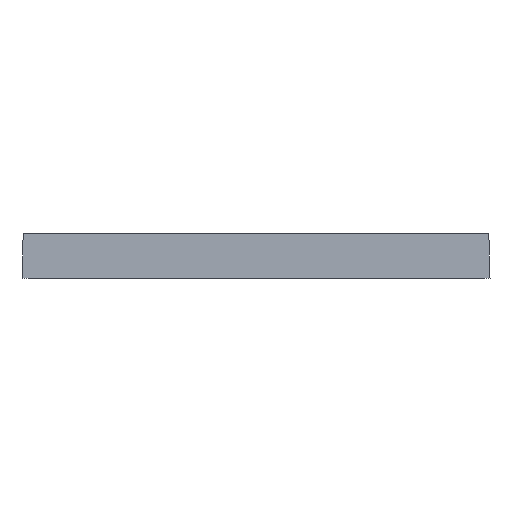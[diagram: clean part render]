
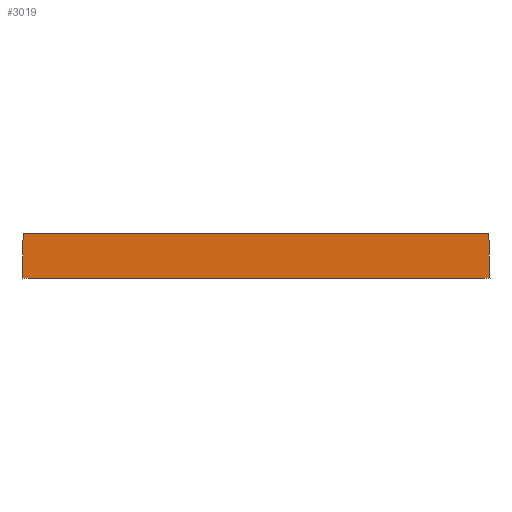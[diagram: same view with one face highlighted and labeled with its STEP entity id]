
A CAD part, front view. The second image highlights one B-rep face of the part: STEP entity #3019.
In plain terms, the highlighted planar face has unit normal (0, -1, 0.026).
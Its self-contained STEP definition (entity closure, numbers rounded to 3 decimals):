
#21 = EDGE_CURVE('',#22,#24,#26,.T.);
#22 = VERTEX_POINT('',#23);
#23 = CARTESIAN_POINT('',(1.053,1.053,40.2));
#24 = VERTEX_POINT('',#25);
#25 = CARTESIAN_POINT('',(421.047,1.053,40.2));
#26 = SURFACE_CURVE('',#27,(#31,#43),.PCURVE_S1.);
#27 = LINE('',#28,#29);
#28 = CARTESIAN_POINT('',(0.,1.053,40.2));
#29 = VECTOR('',#30,1.);
#30 = DIRECTION('',(1.,0.,0.));
#31 = PCURVE('',#32,#37);
#32 = PLANE('',#33);
#33 = AXIS2_PLACEMENT_3D('',#34,#35,#36);
#34 = CARTESIAN_POINT('',(211.05,281.4,40.2));
#35 = DIRECTION('',(0.,0.,1.));
#36 = DIRECTION('',(1.,0.,0.));
#37 = DEFINITIONAL_REPRESENTATION('',(#38),#42);
#38 = LINE('',#39,#40);
#39 = CARTESIAN_POINT('',(-211.05,-280.347));
#40 = VECTOR('',#41,1.);
#41 = DIRECTION('',(1.,0.));
#42 = ( GEOMETRIC_REPRESENTATION_CONTEXT(2) 
PARAMETRIC_REPRESENTATION_CONTEXT() REPRESENTATION_CONTEXT('2D SPACE',''
  ) );
#43 = PCURVE('',#44,#49);
#44 = PLANE('',#45);
#45 = AXIS2_PLACEMENT_3D('',#46,#47,#48);
#46 = CARTESIAN_POINT('',(0.,0.,0.));
#47 = DIRECTION('',(0.,1.,-0.026));
#48 = DIRECTION('',(0.,0.026,1.));
#49 = DEFINITIONAL_REPRESENTATION('',(#50),#54);
#50 = LINE('',#51,#52);
#51 = CARTESIAN_POINT('',(40.214,0.));
#52 = VECTOR('',#53,1.);
#53 = DIRECTION('',(0.,1.));
#54 = ( GEOMETRIC_REPRESENTATION_CONTEXT(2) 
PARAMETRIC_REPRESENTATION_CONTEXT() REPRESENTATION_CONTEXT('2D SPACE',''
  ) );
#72 = PLANE('',#73);
#73 = AXIS2_PLACEMENT_3D('',#74,#75,#76);
#74 = CARTESIAN_POINT('',(422.1,0.,0.));
#75 = DIRECTION('',(-1.,0.,-0.026));
#76 = DIRECTION('',(-0.026,0.,1.));
#126 = PLANE('',#127);
#127 = AXIS2_PLACEMENT_3D('',#128,#129,#130);
#128 = CARTESIAN_POINT('',(0.,562.8,0.));
#129 = DIRECTION('',(1.,0.,-0.026));
#130 = DIRECTION('',(0.026,0.,1.));
#3019 = ADVANCED_FACE('',(#3020),#44,.F.);
#3020 = FACE_BOUND('',#3021,.F.);
#3021 = EDGE_LOOP('',(#3022,#3045,#3046,#3069));
#3022 = ORIENTED_EDGE('',*,*,#3023,.T.);
#3023 = EDGE_CURVE('',#3024,#22,#3026,.T.);
#3024 = VERTEX_POINT('',#3025);
#3025 = CARTESIAN_POINT('',(0.,0.,0.));
#3026 = SURFACE_CURVE('',#3027,(#3031,#3038),.PCURVE_S1.);
#3027 = LINE('',#3028,#3029);
#3028 = CARTESIAN_POINT('',(0.,0.,0.));
#3029 = VECTOR('',#3030,1.);
#3030 = DIRECTION('',(0.026,0.026,
    0.999));
#3031 = PCURVE('',#44,#3032);
#3032 = DEFINITIONAL_REPRESENTATION('',(#3033),#3037);
#3033 = LINE('',#3034,#3035);
#3034 = CARTESIAN_POINT('',(0.,0.));
#3035 = VECTOR('',#3036,1.);
#3036 = DIRECTION('',(1.,0.026));
#3037 = ( GEOMETRIC_REPRESENTATION_CONTEXT(2) 
PARAMETRIC_REPRESENTATION_CONTEXT() REPRESENTATION_CONTEXT('2D SPACE',''
  ) );
#3038 = PCURVE('',#126,#3039);
#3039 = DEFINITIONAL_REPRESENTATION('',(#3040),#3044);
#3040 = LINE('',#3041,#3042);
#3041 = CARTESIAN_POINT('',(0.,562.8));
#3042 = VECTOR('',#3043,1.);
#3043 = DIRECTION('',(1.,-0.026));
#3044 = ( GEOMETRIC_REPRESENTATION_CONTEXT(2) 
PARAMETRIC_REPRESENTATION_CONTEXT() REPRESENTATION_CONTEXT('2D SPACE',''
  ) );
#3045 = ORIENTED_EDGE('',*,*,#21,.T.);
#3046 = ORIENTED_EDGE('',*,*,#3047,.F.);
#3047 = EDGE_CURVE('',#3048,#24,#3050,.T.);
#3048 = VERTEX_POINT('',#3049);
#3049 = CARTESIAN_POINT('',(422.1,0.,0.));
#3050 = SURFACE_CURVE('',#3051,(#3055,#3062),.PCURVE_S1.);
#3051 = LINE('',#3052,#3053);
#3052 = CARTESIAN_POINT('',(422.1,0.,0.));
#3053 = VECTOR('',#3054,1.);
#3054 = DIRECTION('',(-0.026,0.026,
    0.999));
#3055 = PCURVE('',#44,#3056);
#3056 = DEFINITIONAL_REPRESENTATION('',(#3057),#3061);
#3057 = LINE('',#3058,#3059);
#3058 = CARTESIAN_POINT('',(0.,422.1));
#3059 = VECTOR('',#3060,1.);
#3060 = DIRECTION('',(1.,-0.026));
#3061 = ( GEOMETRIC_REPRESENTATION_CONTEXT(2) 
PARAMETRIC_REPRESENTATION_CONTEXT() REPRESENTATION_CONTEXT('2D SPACE',''
  ) );
#3062 = PCURVE('',#72,#3063);
#3063 = DEFINITIONAL_REPRESENTATION('',(#3064),#3068);
#3064 = LINE('',#3065,#3066);
#3065 = CARTESIAN_POINT('',(0.,0.));
#3066 = VECTOR('',#3067,1.);
#3067 = DIRECTION('',(1.,0.026));
#3068 = ( GEOMETRIC_REPRESENTATION_CONTEXT(2) 
PARAMETRIC_REPRESENTATION_CONTEXT() REPRESENTATION_CONTEXT('2D SPACE',''
  ) );
#3069 = ORIENTED_EDGE('',*,*,#3070,.F.);
#3070 = EDGE_CURVE('',#3024,#3048,#3071,.T.);
#3071 = SURFACE_CURVE('',#3072,(#3076,#3083),.PCURVE_S1.);
#3072 = LINE('',#3073,#3074);
#3073 = CARTESIAN_POINT('',(0.,0.,0.));
#3074 = VECTOR('',#3075,1.);
#3075 = DIRECTION('',(1.,0.,0.));
#3076 = PCURVE('',#44,#3077);
#3077 = DEFINITIONAL_REPRESENTATION('',(#3078),#3082);
#3078 = LINE('',#3079,#3080);
#3079 = CARTESIAN_POINT('',(0.,0.));
#3080 = VECTOR('',#3081,1.);
#3081 = DIRECTION('',(0.,1.));
#3082 = ( GEOMETRIC_REPRESENTATION_CONTEXT(2) 
PARAMETRIC_REPRESENTATION_CONTEXT() REPRESENTATION_CONTEXT('2D SPACE',''
  ) );
#3083 = PCURVE('',#3084,#3089);
#3084 = PLANE('',#3085);
#3085 = AXIS2_PLACEMENT_3D('',#3086,#3087,#3088);
#3086 = CARTESIAN_POINT('',(211.05,281.4,0.));
#3087 = DIRECTION('',(0.,0.,1.));
#3088 = DIRECTION('',(1.,0.,0.));
#3089 = DEFINITIONAL_REPRESENTATION('',(#3090),#3094);
#3090 = LINE('',#3091,#3092);
#3091 = CARTESIAN_POINT('',(-211.05,-281.4));
#3092 = VECTOR('',#3093,1.);
#3093 = DIRECTION('',(1.,0.));
#3094 = ( GEOMETRIC_REPRESENTATION_CONTEXT(2) 
PARAMETRIC_REPRESENTATION_CONTEXT() REPRESENTATION_CONTEXT('2D SPACE',''
  ) );
